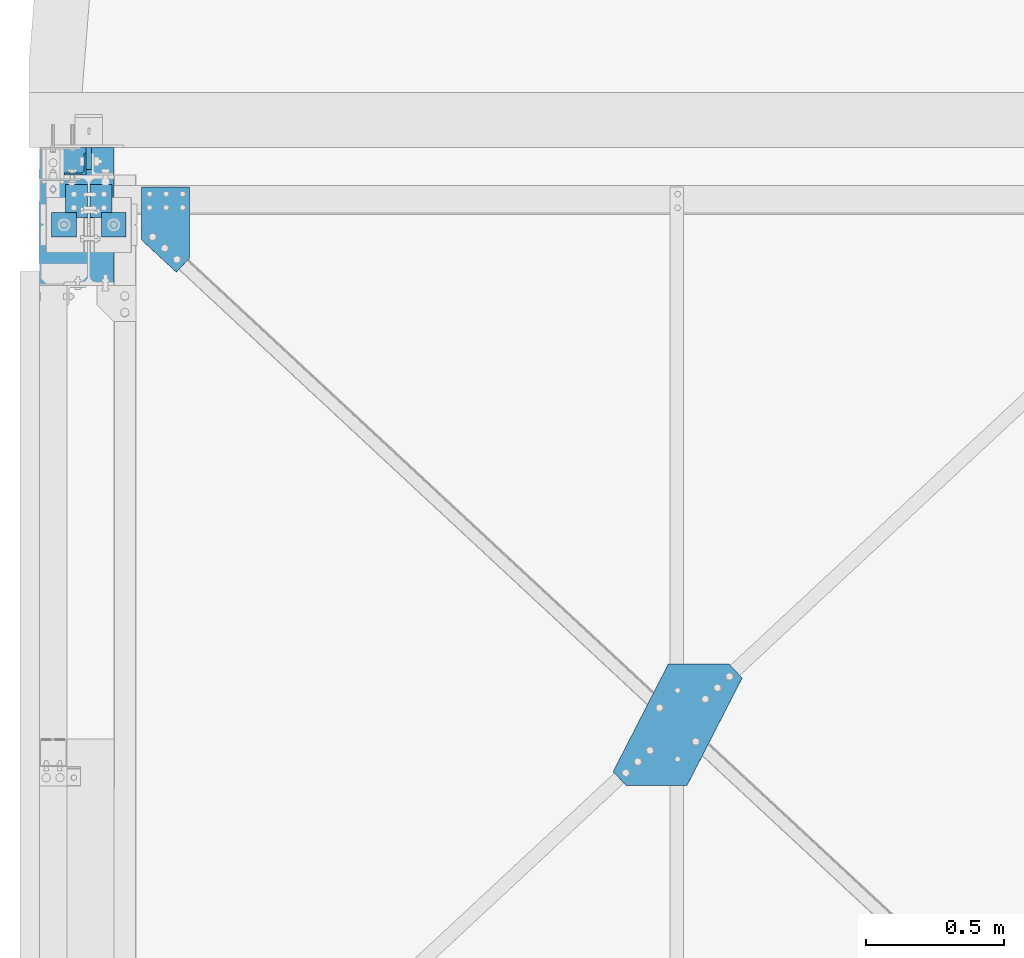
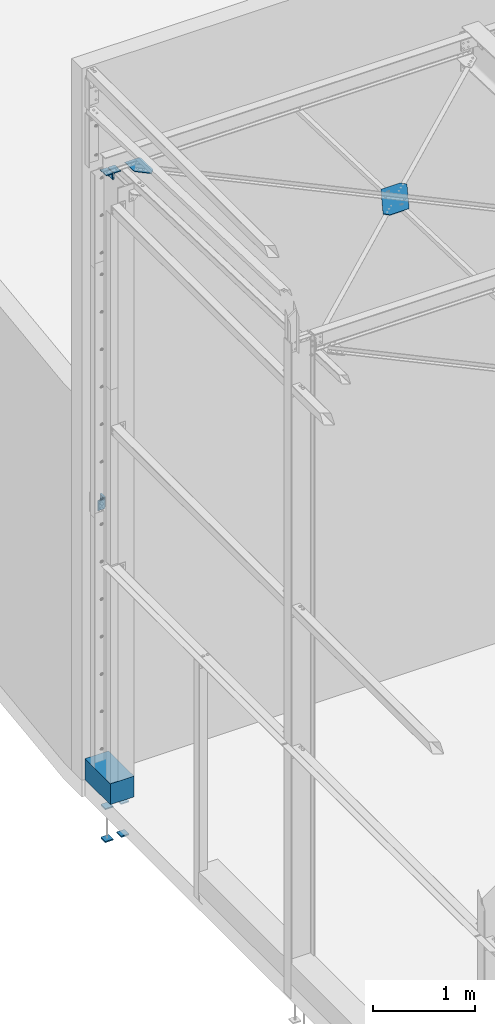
# One storey, part 78 of 362: 11 beams, 8 elements without a shape of their own.
"""IFC2X3 building model written with IfcOpenShell, lengths in millimetres."""

from ifc_helpers import new_model, si_unit, frame, origin_with_axes, origin_2d_with_axis, place, context, subcontext, project, spatial, polyline, rectangle, l_section, outline, extrude, material, type_object, element, aggregate, save


model = new_model("IFC2X3")

# Units and contexts
model_context = context("Model", 3, precision=1e-05, world=origin_with_axes())
body_context = subcontext(model_context, "Body", "Model", "MODEL_VIEW")
ifc_project = project(units=[si_unit("LENGTHUNIT", "METRE", prefix="MILLI"), si_unit("AREAUNIT", "SQUARE_METRE"), si_unit("VOLUMEUNIT", "CUBIC_METRE"), si_unit("MASSUNIT", "GRAM", prefix="KILO"), si_unit("TIMEUNIT", "SECOND"), si_unit("PLANEANGLEUNIT", "RADIAN"), si_unit("SOLIDANGLEUNIT", "STERADIAN"), si_unit("THERMODYNAMICTEMPERATUREUNIT", "DEGREE_CELSIUS"), si_unit("LUMINOUSINTENSITYUNIT", "LUMEN")], contexts=[model_context])

# Site, building, storey
site_placement = place(None, origin_with_axes())
site = spatial("IfcSite", under=ifc_project, at=site_placement, Name="Undefined", CompositionType="ELEMENT")
building_placement = place(site_placement, origin_with_axes())
building = spatial("IfcBuilding", under=site, at=building_placement, Name="Undefined", CompositionType="ELEMENT")
storey_placement = place(building_placement, origin_with_axes())
storey = spatial("IfcBuildingStorey", under=building, at=storey_placement, Name="Undefined", CompositionType="ELEMENT", Elevation=0.0)

# Assembly, beam
assembly_1_placement = place(storey_placement, origin_with_axes())
assembly_1 = element("IfcElementAssembly", 1, at=assembly_1_placement, inside=storey, AssemblyPlace="NOTDEFINED", PredefinedType="NOTDEFINED")
ifc_material_1 = material(Name="Undefined/S235-E24")
beam_type_1 = type_object("IfcBeamType", Name="L80*8", PredefinedType="NOTDEFINED")
beam_1_placement = place(assembly_1_placement, frame((-44.4999999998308, 15135.6320367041, 7334.22506224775), z_axis=(-1.05403257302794e-09, -0.0314112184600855, -0.999506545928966), x_axis=(3.14103090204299e-11, 0.999506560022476, -0.0314107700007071)))
beam_1 = element("IfcBeam", 2, at=beam_1_placement, type_object=beam_type_1, material=ifc_material_1, Name="ATTACHE", ObjectType="L80*8", context=body_context, shape_type="SweptSolid", body=[
    extrude(l_section(Depth=80.0, Width=80.0, Thickness=8.0, FilletRadius=10.0, EdgeRadius=5.0, at=origin_2d_with_axis()), frame((120.0, 0.0, 0.0), z_axis=(-1.0, 0.0, 0.0), x_axis=(0.0, -1.0, 0.0)), (0.0, 0.0, 1.0), 120.0),
])
aggregate(assembly_1, [beam_1])

assembly_2_placement = place(storey_placement, origin_with_axes())
assembly_2 = element("IfcElementAssembly", 3, at=assembly_2_placement, inside=storey, AssemblyPlace="NOTDEFINED", PredefinedType="NOTDEFINED")
beam_2_placement = place(assembly_2_placement, frame((44.4999999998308, 15255.5728222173, 7330.45571608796), z_axis=(-1.05403257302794e-09, -0.0314112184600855, -0.999506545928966), x_axis=(0.0, -0.999506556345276, 0.031410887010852)))
beam_2 = element("IfcBeam", 4, at=beam_2_placement, type_object=beam_type_1, material=ifc_material_1, Name="ATTACHE", ObjectType="L80*8", context=body_context, shape_type="SweptSolid", body=[
    extrude(l_section(Depth=80.0, Width=80.0, Thickness=8.0, FilletRadius=10.0, EdgeRadius=5.0, at=origin_2d_with_axis()), frame((120.0, 0.0, 0.0), z_axis=(-1.0, 0.0, 0.0), x_axis=(0.0, -1.0, 0.0)), (0.0, 0.0, 1.0), 120.0),
])
aggregate(assembly_2, [beam_2])

assembly_3_placement = place(storey_placement, origin_with_axes())
assembly_3 = element("IfcElementAssembly", 5, at=assembly_3_placement, inside=storey, AssemblyPlace="NOTDEFINED", PredefinedType="NOTDEFINED")
beam_3_placement = place(assembly_3_placement, frame((-50.0, 15330.0000024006, 3375.0), z_axis=(-1.0, 0.0, 0.0), x_axis=(0.0, 0.0, -1.0)))
beam_3 = element("IfcBeam", 6, at=beam_3_placement, type_object=beam_type_1, material=ifc_material_1, Name="ATTACHE", ObjectType="L80*8", context=body_context, shape_type="SweptSolid", body=[
    extrude(l_section(Depth=80.0, Width=80.0, Thickness=8.0, FilletRadius=10.0, EdgeRadius=5.0, at=origin_2d_with_axis()), frame((120.0, 0.0, 0.0), z_axis=(-1.0, 0.0, 0.0), x_axis=(0.0, -1.0, 0.0)), (0.0, 0.0, 1.0), 120.0),
])
aggregate(assembly_3, [beam_3])

assembly_4_placement = place(storey_placement, origin_with_axes())
assembly_4 = element("IfcElementAssembly", 7, at=assembly_4_placement, inside=storey, AssemblyPlace="NOTDEFINED", PredefinedType="NOTDEFINED")
beam_type_2 = type_object("IfcBeamType", Name="TOLE6*262", PredefinedType="NOTDEFINED")
beam_4_placement = place(assembly_4_placement, frame((2321.30220508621, 13517.6191026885, 7422.09217762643), z_axis=(7.58071938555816e-11, 0.0314107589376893, 0.999506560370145), x_axis=(-1.0, 0.0, 0.0)))
beam_4 = element("IfcBeam", 8, at=beam_4_placement, type_object=beam_type_2, material=ifc_material_1, Name="GOUSSET", ObjectType="TOLE6*262", context=body_context, shape_type="SweptSolid", body=[
    extrude(outline(polyline([(0.0, 0.0), (219.999999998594, -9.93168214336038e-10), (420.263031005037, 390.657226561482), (372.604370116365, 441.927673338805), (152.604415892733, 441.927612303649), (-47.6586227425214, 51.2704162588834), (0.0, 0.0)])), frame((0.0, 0.0, -3.0), z_axis=(0.0, 0.0, 1.0), x_axis=(1.0, 0.0, 0.0)), (0.0, 0.0, 1.0), 6.0),
])
aggregate(assembly_4, [beam_4])

assembly_5_placement = place(storey_placement, origin_with_axes())
assembly_5 = element("IfcElementAssembly", 9, at=assembly_5_placement, inside=storey, AssemblyPlace="NOTDEFINED", PredefinedType="NOTDEFINED")
beam_type_3 = type_object("IfcBeamType", Name="TOLE6*175", PredefinedType="NOTDEFINED")
beam_5_placement = place(assembly_5_placement, frame((316.997693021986, 14938.099610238, 7377.45112643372), z_axis=(-1.05403257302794e-09, -0.0314112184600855, -0.999506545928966), x_axis=(-0.732434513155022, 0.680501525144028, -0.0213859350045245)))
beam_5 = element("IfcBeam", 10, at=beam_5_placement, type_object=beam_type_3, material=ifc_material_1, Name="GOUSSET", ObjectType="TOLE6*175", context=body_context, shape_type="SweptSolid", body=[
    extrude(outline(polyline([(0.0, 0.0), (173.391189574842, 4.54747350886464e-11), (303.255157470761, 139.705673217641), (175.330810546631, 258.618286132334), (-7.87930366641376e-05, 69.9999999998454), (0.0, 0.0)])), frame((0.0, 0.0, -3.0), z_axis=(0.0, 0.0, 1.0), x_axis=(1.0, 0.0, 0.0)), (0.0, 0.0, 1.0), 6.0),
])
aggregate(assembly_5, [beam_5])

assembly_6_placement = place(storey_placement, origin_with_axes())
assembly_6 = element("IfcElementAssembly", 11, at=assembly_6_placement, inside=storey, Name="POUTRE", AssemblyPlace="NOTDEFINED", PredefinedType="REINFORCEMENT_UNIT")
ifc_material_2 = material(Name="CONCRETE/C25/30")
beam_type_4 = type_object("IfcBeamType", Name="250*270", PredefinedType="NOTDEFINED")
beam_6_placement = place(assembly_6_placement, frame((-44.9999989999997, 15390.0000797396, 124.999999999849), z_axis=(0.0, 0.0, 1.0), x_axis=(0.0, -1.0, 0.0)))
beam_6 = element("IfcBeam", 12, at=beam_6_placement, type_object=beam_type_4, material=ifc_material_2, Name="POUTRE", ObjectType="250*270", context=body_context, shape_type="SweptSolid", body=[
    extrude(rectangle(XDim=270.0, YDim=250.0, at=origin_2d_with_axis()), frame((500.000077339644, 0.0, 0.0), z_axis=(-1.0, 0.0, 0.0), x_axis=(0.0, -1.0, 0.0)), (0.0, 0.0, 1.0), 500.0),
])
aggregate(assembly_6, [beam_6])

assembly_7_placement = place(storey_placement, origin_with_axes())
assembly_7 = element("IfcElementAssembly", 13, at=assembly_7_placement, inside=storey, AssemblyPlace="NOTDEFINED", PredefinedType="NOTDEFINED")
beam_type_5 = type_object("IfcBeamType", Name="PL20*80", PredefinedType="NOTDEFINED")
beam_7_placement = place(assembly_7_placement, frame((0.0, 15350.0, 3375.0), z_axis=(0.0, -1.0, 0.0), x_axis=(0.0, 0.0, -1.0)))
beam_7 = element("IfcBeam", 14, at=beam_7_placement, type_object=beam_type_5, material=ifc_material_1, Name="PLAT", ObjectType="PL20*80", context=body_context, shape_type="SweptSolid", body=[
    extrude(rectangle(XDim=20.0, YDim=80.0, at=origin_2d_with_axis()), frame((120.0, 0.0, 0.0), z_axis=(-1.0, 0.0, 0.0), x_axis=(0.0, -1.0, 0.0)), (0.0, 0.0, 1.0), 120.0),
])
aggregate(assembly_7, [beam_7])

# Assembly, beams
assembly_8_placement = place(storey_placement, origin_with_axes())
assembly_8 = element("IfcElementAssembly", 15, at=assembly_8_placement, inside=storey, Name="PRESCELLEMENT PS24", AssemblyPlace="NOTDEFINED", PredefinedType="NOTDEFINED")
beam_type_6 = type_object("IfcBeamType", Name="PL15*90", PredefinedType="NOTDEFINED")
beam_8_placement = place(assembly_8_placement, frame((-45.0028495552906, 15064.9999996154, -177.5), z_axis=(0.0, 0.0, 1.0), x_axis=(0.0, 1.0, 0.0)))
beam_8 = element("IfcBeam", 16, at=beam_8_placement, type_object=beam_type_6, material=ifc_material_1, Name="PLAQUETTE", ObjectType="PL15*90", context=body_context, shape_type="SweptSolid", body=[
    extrude(outline(polyline([(0.0, 0.0), (90.0, 0.0), (90.0, 90.0), (0.0, 90.0), (0.0, 0.0)])), frame((0.0, 0.0, -7.5), z_axis=(0.0, 0.0, 1.0), x_axis=(1.0, 0.0, 0.0)), (0.0, 0.0, 1.0), 15.0),
])
beam_9_placement = place(assembly_8_placement, frame((134.997150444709, 15064.9999996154, -177.5), z_axis=(0.0, 0.0, 1.0), x_axis=(0.0, 1.0, 0.0)))
beam_9 = element("IfcBeam", 17, at=beam_9_placement, type_object=beam_type_6, material=ifc_material_1, Name="PLAQUETTE", ObjectType="PL15*90", context=body_context, shape_type="SweptSolid", body=[
    extrude(outline(polyline([(0.0, 0.0), (90.0, 0.0), (90.0, 90.0), (0.0, 90.0), (0.0, 0.0)])), frame((0.0, 0.0, -7.5), z_axis=(0.0, 0.0, 1.0), x_axis=(1.0, 0.0, 0.0)), (0.0, 0.0, 1.0), 15.0),
])
beam_10_placement = place(assembly_8_placement, frame((-45.0028495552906, 15064.9999996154, -572.5), z_axis=(0.0, 0.0, 1.0), x_axis=(0.0, 1.0, 0.0)))
beam_10 = element("IfcBeam", 18, at=beam_10_placement, type_object=beam_type_6, material=ifc_material_1, Name="PLAQUETTE", ObjectType="PL15*90", context=body_context, shape_type="SweptSolid", body=[
    extrude(outline(polyline([(0.0, 0.0), (90.0, 0.0), (90.0, 90.0), (0.0, 90.0), (0.0, 0.0)])), frame((0.0, 0.0, -7.5), z_axis=(0.0, 0.0, 1.0), x_axis=(1.0, 0.0, 0.0)), (0.0, 0.0, 1.0), 15.0),
])
beam_11_placement = place(assembly_8_placement, frame((134.997150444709, 15064.9999996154, -572.5), z_axis=(0.0, 0.0, 1.0), x_axis=(0.0, 1.0, 0.0)))
beam_11 = element("IfcBeam", 19, at=beam_11_placement, type_object=beam_type_6, material=ifc_material_1, Name="PLAQUETTE", ObjectType="PL15*90", context=body_context, shape_type="SweptSolid", body=[
    extrude(outline(polyline([(0.0, 0.0), (90.0, 0.0), (90.0, 90.0), (0.0, 90.0), (0.0, 0.0)])), frame((0.0, 0.0, -7.5), z_axis=(0.0, 0.0, 1.0), x_axis=(1.0, 0.0, 0.0)), (0.0, 0.0, 1.0), 15.0),
])
aggregate(assembly_8, [beam_8, beam_9, beam_10, beam_11])

save(model, "model.ifc")
